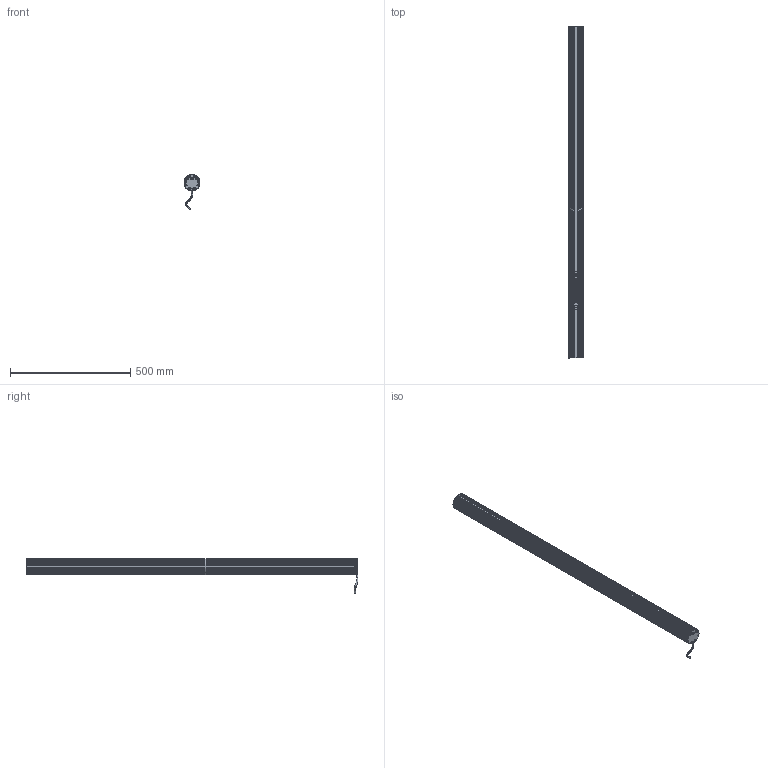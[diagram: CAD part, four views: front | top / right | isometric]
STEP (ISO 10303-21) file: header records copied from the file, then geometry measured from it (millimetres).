
FILE_DESCRIPTION (( 'STEP AP214' ), '1' );
FILE_NAME ('I 67 Koax EB1380mm Hub1000mm.STEP', '2018-04-18T14:43:30', ( '' ), ( '' ), 'SwSTEP 2.0', 'SolidWorks 2017', '' );
FILE_SCHEMA (( 'AUTOMOTIVE_DESIGN' ));
Length unit declared in the file: millimetre
Products named in the file (11): Innenprofil I67_70_Standard_Standard; Senkschraube_M5 x 16 DIN 7991_Standard_Standard; I 67 Koax EB1380mm Hub1000mm; Außenprofil I67_1844_Standard_Standard; Läuferkopf 260204_skaliert_nicht skaliert_Standard_Standard; Profildeckel_2_Laserteil_Standard_Standard; Läufer gesamt_Single Spindel_Standard_Standard; Band_Standard_Standard_Standard; Schraube_DIN912_M5 x 20 DIN 912_Standard_Standard; Kabel_Standard_Standard_Standard; Fath vierk mutter gross_Standard_Standard_Standard
Assembly tree (27 placements, depth 3):
  I 67 Koax EB1380mm Hub1000mm
    Läufer gesamt_Single Spindel_Standard_Standard
      Läuferkopf 260204_skaliert_nicht skaliert_Standard_Standard  x4
      Schraube_DIN912_M5 x 20 DIN 912_Standard_Standard  x6
      Innenprofil I67_70_Standard_Standard
    Senkschraube_M5 x 16 DIN 7991_Standard_Standard  x9
    Profildeckel_2_Laserteil_Standard_Standard  x2
    Band_Standard_Standard_Standard
    Fath vierk mutter gross_Standard_Standard_Standard
    Außenprofil I67_1844_Standard_Standard
    Kabel_Standard_Standard_Standard
Bounding box: 66.5 x 1380.17 x 144.58 mm (x, y, z)
Volume: 1233989.2 mm3; surface area: 1006134.6 mm2
Topology: 26 solids, 26 shells, 2418 faces, 6349 edges, 4072 vertices
Faces by surface type: plane 756, cylinder 740, cone 664, bspline 258
Entity records: 34109 total; most frequent: CARTESIAN_POINT 8748, DIRECTION 5383, ORIENTED_EDGE 5294, EDGE_CURVE 2647, AXIS2_PLACEMENT_3D 2048, VERTEX_POINT 1725, LINE 1287, VECTOR 1287
